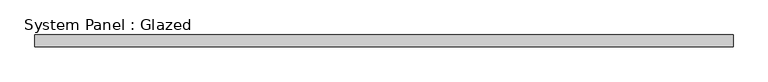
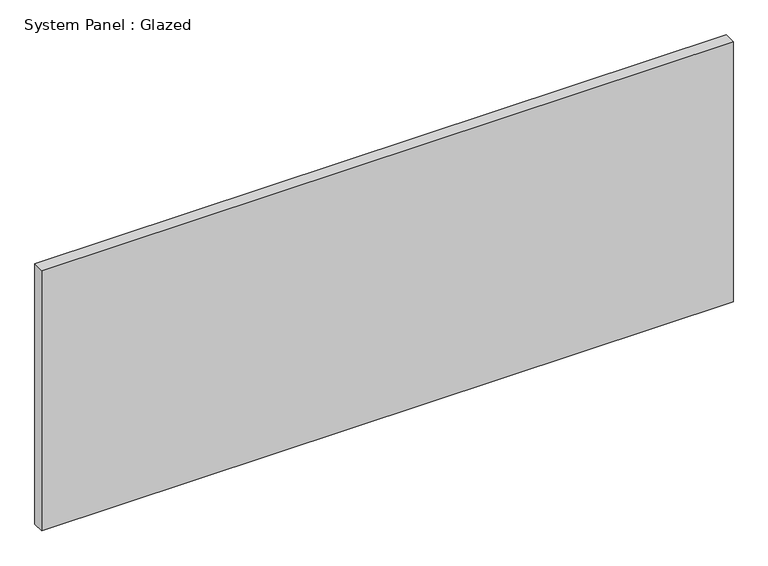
"""IFC4 building model written with IfcOpenShell, lengths in millimetres: plate geometry, System Panel : Glazed."""

from ifc_helpers import new_model, si_unit, origin, origin_with_axes, place, context, project, spatial, polyline, outline, extrude, source, transform, mapped, element, save


def system_panel_glazed_262eb8f8(model_context):
    return source(origin(), model_context, "Body", "SweptSolid", [
        extrude(outline(polyline([(741.40625, 24.5), (-741.40625, 24.5), (-741.40625, 49.5), (741.40625, 49.5), (741.40625, 24.5)])), origin_with_axes(), (0.0, 0.0, 1.0), 590.0),
    ])


if __name__ == "__main__":
    model = new_model("IFC4")
    model_context = context("Model", 3, world=origin())
    ifc_project = project(units=[si_unit("LENGTHUNIT", "METRE", prefix="MILLI")], contexts=[model_context])
    site = spatial("IfcSite", under=ifc_project)
    building = spatial("IfcBuilding", under=site)
    placement = place(None, origin())
    system_panel_glazed_shape = system_panel_glazed_262eb8f8(model_context)
    element("IfcPlate", 1, ObjectType="System Panel : Glazed", at=placement, inside=building, context=model_context, shape_type="MappedRepresentation", body=[
        mapped(system_panel_glazed_shape, transform((0.0, 0.0, 0.0), x_axis=(1.0, 0.0, 0.0), y_axis=(0.0, 1.0, 0.0), z_axis=(0.0, 0.0, 1.0))),
    ])
    save(model, "model.ifc")
